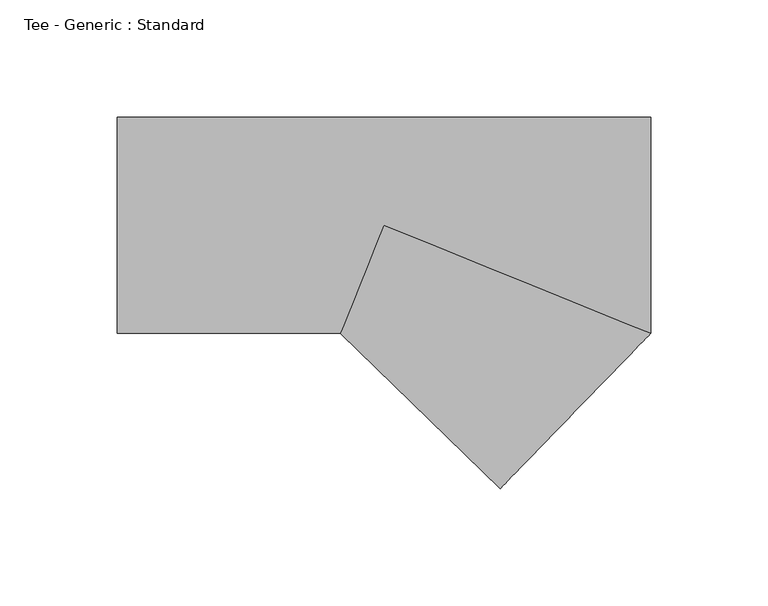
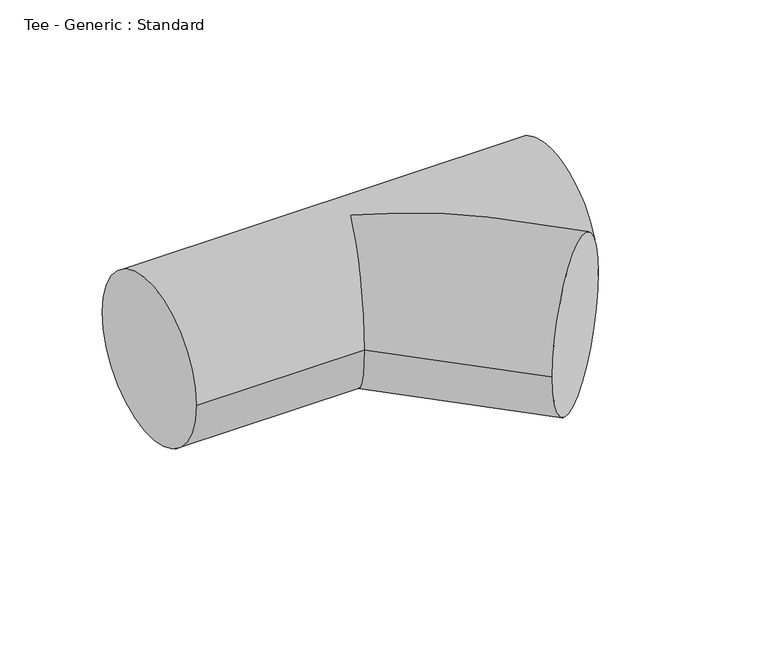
"""IFC4 building model written with IfcOpenShell, lengths in millimetres: pipe fitting geometry, Tee - Generic : Standard."""

from ifc_helpers import new_model, si_unit, frame, origin, place, context, project, spatial, circle_curve, ellipse_curve, source, transform, mapped, element, save
from ifc_brep_helpers import plane_surface, cylinder_surface, advanced_brep


def tee_generic_standard_53120244(model_context):
    return source(origin(), model_context, "Body", "AdvancedBrep", [
        advanced_brep(
        [(-113.6410836, -46.0375, 0.0), (-113.6410836, 46.0375, 0.0), (113.6410836, -46.0375, 0.0), (113.6410836, 46.0375, 0.0), (-18.6503977, -46.0375, 0.0), (0.0, 0.0, 46.0375), (0.0, 0.0, -46.0375), (49.5567938, -112.15111, 0.0)],
        [
            (0, 1, circle_curve(frame((-113.6410836, 0.0, 0.0), z_axis=(-1.0, 0.0, 0.0), x_axis=(0.0, 1.0, 0.0)), 46.0375)),
            (1, 0, circle_curve(frame((-113.6410836, 0.0, 0.0), z_axis=(-1.0, 0.0, 0.0), x_axis=(0.0, 1.0, 0.0)), 46.0375)),
            (2, 3, circle_curve(frame((113.6410836, 0.0, 0.0), z_axis=(1.0, 0.0, 0.0), x_axis=(0.0, 1.0, 0.0)), 46.0375)),
            (3, 2, circle_curve(frame((113.6410836, 0.0, 0.0), z_axis=(1.0, 0.0, 0.0), x_axis=(0.0, 1.0, 0.0)), 46.0375)),
            (0, 4),
            (4, 5, ellipse_curve(frame((0.0, 0.0, 0.0), z_axis=(-0.9268335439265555, 0.3754724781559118, 0.0), x_axis=(-0.3754724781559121, -0.9268335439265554, 0.0)), 49.6718103, 46.0375)),
            (5, 2, ellipse_curve(frame((0.0, 0.0, 0.0), z_axis=(0.3754724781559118, 0.9268335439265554, 0.0), x_axis=(-0.9268335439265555, 0.37547247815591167, 0.0)), 122.6121825, 46.0375)),
            (3, 1),
            (2, 6, ellipse_curve(frame((0.0, 0.0, 0.0), z_axis=(0.3754724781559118, 0.9268335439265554, 0.0), x_axis=(-0.9268335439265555, 0.37547247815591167, 0.0)), 122.6121825, 46.0375)),
            (6, 4, ellipse_curve(frame((0.0, 0.0, 0.0), z_axis=(-0.9268335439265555, 0.3754724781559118, 0.0), x_axis=(-0.3754724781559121, -0.9268335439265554, 0.0)), 49.6718103, 46.0375)),
            (7, 2, circle_curve(frame((81.5989387, -79.094305, 0.0), z_axis=(0.7180408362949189, -0.6960009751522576, 0.0), x_axis=(0.6960009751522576, 0.7180408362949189, 0.0)), 46.0375)),
            (2, 7, circle_curve(frame((81.5989387, -79.094305, 0.0), z_axis=(0.7180408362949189, -0.6960009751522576, 0.0), x_axis=(0.6960009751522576, 0.7180408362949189, 0.0)), 46.0375)),
            (4, 7),
        ],
        [
            plane_surface(frame((-113.6410836, 0.0, 0.0), z_axis=(-1.0, 0.0, 0.0), x_axis=(0.0, 0.0, 1.0))),
            plane_surface(frame((113.6410836, 0.0, 0.0), z_axis=(1.0, 0.0, 0.0), x_axis=(0.0, 0.0, 1.0))),
            cylinder_surface(frame((-113.6410836, 0.0, 0.0), z_axis=(-1.0, 0.0, 0.0), x_axis=(0.0, 1.0, 0.0)), 46.0375),
            plane_surface(frame((81.5989387, -79.094305, 0.0), z_axis=(0.7180408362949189, -0.6960009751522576, 0.0), x_axis=(0.0, 0.0, 1.0))),
            cylinder_surface(frame((0.0, 0.0, 0.0), z_axis=(-0.7180408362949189, 0.6960009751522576, 0.0), x_axis=(0.6960009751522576, 0.7180408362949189, 0.0)), 46.0375),
        ],
        [
            (0, [[1, 2]]),
            (1, [[3, 4]]),
            (2, [[-1, 5, 6, 7, -4, 8]]),
            (2, [[-2, -8, -3, 9, 10, -5]]),
            (3, [[11, 12]]),
            (4, [[-12, -7, -6, 13]]),
            (4, [[-11, -13, -10, -9]]),
        ],
    ),
    ])


if __name__ == "__main__":
    model = new_model("IFC4")
    model_context = context("Model", 3, world=origin())
    ifc_project = project(units=[si_unit("LENGTHUNIT", "METRE", prefix="MILLI")], contexts=[model_context])
    site = spatial("IfcSite", under=ifc_project)
    building = spatial("IfcBuilding", under=site)
    placement = place(None, origin())
    tee_generic_standard_shape = tee_generic_standard_53120244(model_context)
    element("IfcPipeFitting", 1, ObjectType="Tee - Generic : Standard", at=placement, inside=building, context=model_context, shape_type="MappedRepresentation", body=[
        mapped(tee_generic_standard_shape, transform((0.0, 0.0, 0.0), x_axis=(1.0, 0.0, 0.0), y_axis=(0.0, 1.0, 0.0), z_axis=(0.0, 0.0, 1.0))),
    ])
    save(model, "model.ifc")
